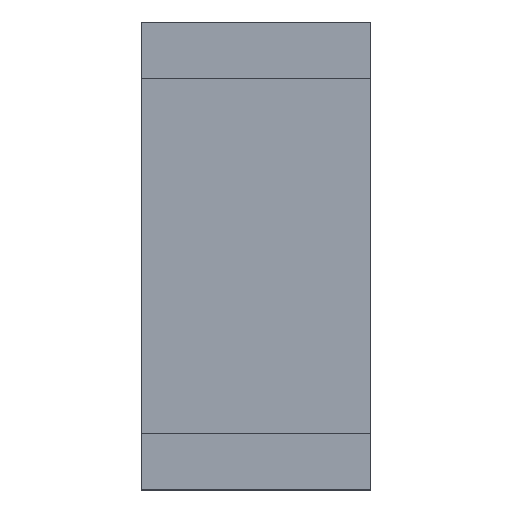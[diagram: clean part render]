
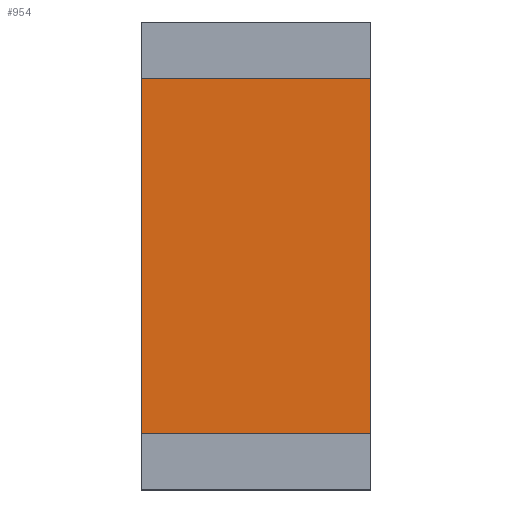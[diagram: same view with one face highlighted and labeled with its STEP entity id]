
A CAD part, top view. The second image highlights one B-rep face of the part: STEP entity #954.
In plain terms, the highlighted planar face has unit normal (0, 0, 1).
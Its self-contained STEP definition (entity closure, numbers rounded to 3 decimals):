
#825 = VERTEX_POINT('',#826);
#826 = CARTESIAN_POINT('',(-1.225,1.9,0.55));
#832 = EDGE_CURVE('',#825,#833,#835,.T.);
#833 = VERTEX_POINT('',#834);
#834 = CARTESIAN_POINT('',(-1.225,-1.9,0.55));
#835 = LINE('',#836,#837);
#836 = CARTESIAN_POINT('',(-1.225,1.9,0.55));
#837 = VECTOR('',#838,1.);
#838 = DIRECTION('',(0.,-1.,0.));
#863 = EDGE_CURVE('',#833,#864,#866,.T.);
#864 = VERTEX_POINT('',#865);
#865 = CARTESIAN_POINT('',(1.225,-1.9,0.55));
#866 = LINE('',#867,#868);
#867 = CARTESIAN_POINT('',(-1.225,-1.9,0.55));
#868 = VECTOR('',#869,1.);
#869 = DIRECTION('',(1.,0.,0.));
#894 = EDGE_CURVE('',#864,#895,#897,.T.);
#895 = VERTEX_POINT('',#896);
#896 = CARTESIAN_POINT('',(1.225,1.9,0.55));
#897 = LINE('',#898,#899);
#898 = CARTESIAN_POINT('',(1.225,-1.9,0.55));
#899 = VECTOR('',#900,1.);
#900 = DIRECTION('',(0.,1.,0.));
#925 = EDGE_CURVE('',#895,#825,#926,.T.);
#926 = LINE('',#927,#928);
#927 = CARTESIAN_POINT('',(1.225,1.9,0.55));
#928 = VECTOR('',#929,1.);
#929 = DIRECTION('',(-1.,0.,0.));
#954 = ADVANCED_FACE('',(#955),#961,.T.);
#955 = FACE_BOUND('',#956,.T.);
#956 = EDGE_LOOP('',(#957,#958,#959,#960));
#957 = ORIENTED_EDGE('',*,*,#832,.T.);
#958 = ORIENTED_EDGE('',*,*,#863,.T.);
#959 = ORIENTED_EDGE('',*,*,#894,.T.);
#960 = ORIENTED_EDGE('',*,*,#925,.T.);
#961 = PLANE('',#962);
#962 = AXIS2_PLACEMENT_3D('',#963,#964,#965);
#963 = CARTESIAN_POINT('',(0.,0.,0.55));
#964 = DIRECTION('',(0.,0.,1.));
#965 = DIRECTION('',(1.,0.,0.));
